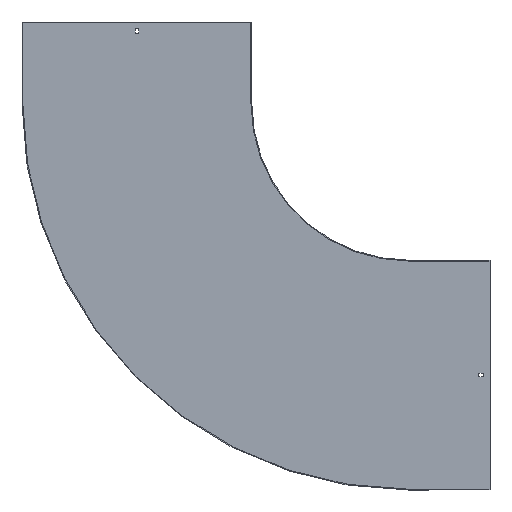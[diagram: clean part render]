
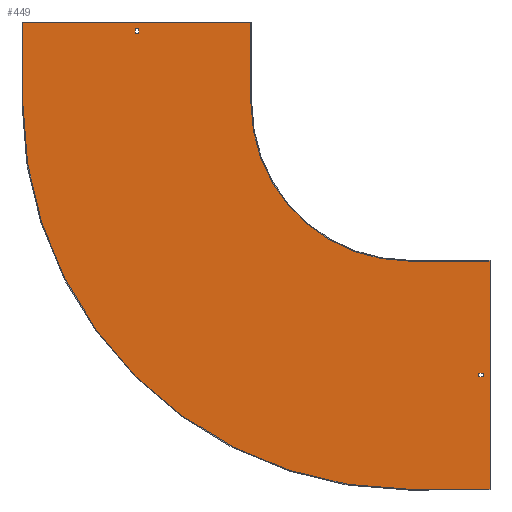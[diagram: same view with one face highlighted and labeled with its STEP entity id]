
A CAD part, front view. The second image highlights one B-rep face of the part: STEP entity #449.
In plain terms, the highlighted planar face has unit normal (0, -1, 0).
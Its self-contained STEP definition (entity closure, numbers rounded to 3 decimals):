
#6 = CARTESIAN_POINT ( 'NONE',  ( 138., -1.5, 0. ) ) ;
#19 = ORIENTED_EDGE ( 'NONE', *, *, #100, .F. ) ;
#25 = CIRCLE ( 'NONE', #410, 710. ) ;
#26 = DIRECTION ( 'NONE',  ( 1., 0., 0. ) ) ;
#29 = CARTESIAN_POINT ( 'NONE',  ( -496.75, -1.5, 0. ) ) ;
#47 = AXIS2_PLACEMENT_3D ( 'NONE', #545, #805, #743 ) ;
#56 = CARTESIAN_POINT ( 'NONE',  ( 0., -1.5, -496.75 ) ) ;
#59 = ORIENTED_EDGE ( 'NONE', *, *, #819, .F. ) ;
#69 = VERTEX_POINT ( 'NONE', #794 ) ;
#71 = DIRECTION ( 'NONE',  ( 0., 0., -1. ) ) ;
#73 = CARTESIAN_POINT ( 'NONE',  ( -710., -1.5, 0. ) ) ;
#74 = FACE_BOUND ( 'NONE', #325, .T. ) ;
#76 = LINE ( 'NONE', #688, #215 ) ;
#84 = CARTESIAN_POINT ( 'NONE',  ( 129., -1.5, -496.75 ) ) ;
#87 = EDGE_CURVE ( 'NONE', #456, #430, #734, .T. ) ;
#94 = VERTEX_POINT ( 'NONE', #681 ) ;
#100 = EDGE_CURVE ( 'NONE', #264, #472, #76, .T. ) ;
#103 = AXIS2_PLACEMENT_3D ( 'NONE', #808, #607, #675 ) ;
#106 = VECTOR ( 'NONE', #538, 1000. ) ;
#110 = ORIENTED_EDGE ( 'NONE', *, *, #131, .F. ) ;
#112 = CARTESIAN_POINT ( 'NONE',  ( -290., -1.5, 150. ) ) ;
#119 = VERTEX_POINT ( 'NONE', #412 ) ;
#124 = VECTOR ( 'NONE', #71, 1000. ) ;
#126 = ORIENTED_EDGE ( 'NONE', *, *, #846, .F. ) ;
#127 = LINE ( 'NONE', #768, #628 ) ;
#131 = EDGE_CURVE ( 'NONE', #69, #94, #153, .T. ) ;
#132 = VERTEX_POINT ( 'NONE', #741 ) ;
#133 = CARTESIAN_POINT ( 'NONE',  ( -290., -1.5, 150. ) ) ;
#144 = DIRECTION ( 'NONE',  ( 0., 0., 1. ) ) ;
#145 = EDGE_CURVE ( 'NONE', #407, #844, #25, .T. ) ;
#146 = PLANE ( 'NONE',  #103 ) ;
#147 = EDGE_CURVE ( 'NONE', #132, #312, #620, .T. ) ;
#149 = VERTEX_POINT ( 'NONE', #363 ) ;
#151 = DIRECTION ( 'NONE',  ( 1., 0., 0. ) ) ;
#153 = LINE ( 'NONE', #6, #106 ) ;
#156 = CARTESIAN_POINT ( 'NONE',  ( 129., -1.5, 0. ) ) ;
#164 = CARTESIAN_POINT ( 'NONE',  ( 150., -1.5, -290. ) ) ;
#176 = DIRECTION ( 'NONE',  ( 1., 0., 0. ) ) ;
#181 = EDGE_CURVE ( 'NONE', #472, #407, #703, .T. ) ;
#215 = VECTOR ( 'NONE', #406, 1000. ) ;
#217 = CARTESIAN_POINT ( 'NONE',  ( 129., -1.5, -503.25 ) ) ;
#224 = EDGE_CURVE ( 'NONE', #312, #855, #764, .T. ) ;
#234 = EDGE_CURVE ( 'NONE', #430, #69, #309, .T. ) ;
#246 = ORIENTED_EDGE ( 'NONE', *, *, #451, .F. ) ;
#263 = VECTOR ( 'NONE', #151, 1000. ) ;
#264 = VERTEX_POINT ( 'NONE', #164 ) ;
#265 = VECTOR ( 'NONE', #665, 1000. ) ;
#271 = CARTESIAN_POINT ( 'NONE',  ( 0., -1.5, 138. ) ) ;
#274 = CARTESIAN_POINT ( 'NONE',  ( 0., -1.5, -290. ) ) ;
#292 = VECTOR ( 'NONE', #505, 1000. ) ;
#301 = CARTESIAN_POINT ( 'NONE',  ( 0., -1.5, -290. ) ) ;
#304 = DIRECTION ( 'NONE',  ( 0., 0., -1. ) ) ;
#305 = DIRECTION ( 'NONE',  ( -1., 0., 0. ) ) ;
#309 = LINE ( 'NONE', #760, #659 ) ;
#312 = VERTEX_POINT ( 'NONE', #714 ) ;
#325 = EDGE_LOOP ( 'NONE', ( #646, #812, #522, #625 ) ) ;
#334 = ORIENTED_EDGE ( 'NONE', *, *, #726, .F. ) ;
#340 = VERTEX_POINT ( 'NONE', #399 ) ;
#345 = LINE ( 'NONE', #274, #263 ) ;
#352 = CARTESIAN_POINT ( 'NONE',  ( 0., -1.5, 129. ) ) ;
#353 = VERTEX_POINT ( 'NONE', #112 ) ;
#363 = CARTESIAN_POINT ( 'NONE',  ( -710., -1.5, 150. ) ) ;
#370 = DIRECTION ( 'NONE',  ( -1., 0., 0. ) ) ;
#389 = ORIENTED_EDGE ( 'NONE', *, *, #145, .F. ) ;
#399 = CARTESIAN_POINT ( 'NONE',  ( -290., -1.5, 0. ) ) ;
#406 = DIRECTION ( 'NONE',  ( 0., 0., -1. ) ) ;
#407 = VERTEX_POINT ( 'NONE', #717 ) ;
#410 = AXIS2_PLACEMENT_3D ( 'NONE', #616, #420, #684 ) ;
#412 = CARTESIAN_POINT ( 'NONE',  ( -496.75, -1.5, 138. ) ) ;
#416 = ORIENTED_EDGE ( 'NONE', *, *, #725, .F. ) ;
#420 = DIRECTION ( 'NONE',  ( 0., 1., 0. ) ) ;
#421 = ORIENTED_EDGE ( 'NONE', *, *, #181, .F. ) ;
#425 = VECTOR ( 'NONE', #144, 1000. ) ;
#430 = VERTEX_POINT ( 'NONE', #217 ) ;
#434 = EDGE_LOOP ( 'NONE', ( #416, #110, #821, #710 ) ) ;
#443 = CARTESIAN_POINT ( 'NONE',  ( -503.25, -1.5, 0. ) ) ;
#447 = EDGE_LOOP ( 'NONE', ( #334, #59, #389, #421, #19, #246, #668, #126 ) ) ;
#449 = ADVANCED_FACE ( 'NONE', ( #733, #687, #74 ), #146, .T. ) ;
#451 = EDGE_CURVE ( 'NONE', #549, #264, #345, .T. ) ;
#456 = VERTEX_POINT ( 'NONE', #84 ) ;
#472 = VERTEX_POINT ( 'NONE', #614 ) ;
#476 = VECTOR ( 'NONE', #504, 1000. ) ;
#478 = EDGE_CURVE ( 'NONE', #855, #119, #479, .T. ) ;
#479 = LINE ( 'NONE', #271, #510 ) ;
#504 = DIRECTION ( 'NONE',  ( 0., 0., 1. ) ) ;
#505 = DIRECTION ( 'NONE',  ( -1., 0., 0. ) ) ;
#510 = VECTOR ( 'NONE', #531, 1000. ) ;
#514 = EDGE_CURVE ( 'NONE', #340, #549, #772, .T. ) ;
#522 = ORIENTED_EDGE ( 'NONE', *, *, #147, .T. ) ;
#531 = DIRECTION ( 'NONE',  ( 1., 0., 0. ) ) ;
#538 = DIRECTION ( 'NONE',  ( 0., 0., 1. ) ) ;
#544 = CARTESIAN_POINT ( 'NONE',  ( -503.25, -1.5, 138. ) ) ;
#545 = CARTESIAN_POINT ( 'NONE',  ( 0., -1.5, 0. ) ) ;
#549 = VERTEX_POINT ( 'NONE', #301 ) ;
#570 = CARTESIAN_POINT ( 'NONE',  ( 150., -1.5, -710. ) ) ;
#600 = LINE ( 'NONE', #792, #425 ) ;
#601 = VECTOR ( 'NONE', #305, 1000. ) ;
#607 = DIRECTION ( 'NONE',  ( 0., -1., 0. ) ) ;
#612 = EDGE_CURVE ( 'NONE', #119, #132, #639, .T. ) ;
#614 = CARTESIAN_POINT ( 'NONE',  ( 150., -1.5, -710. ) ) ;
#616 = CARTESIAN_POINT ( 'NONE',  ( 0., -1.5, 0. ) ) ;
#620 = LINE ( 'NONE', #352, #601 ) ;
#625 = ORIENTED_EDGE ( 'NONE', *, *, #224, .T. ) ;
#628 = VECTOR ( 'NONE', #176, 1000. ) ;
#639 = LINE ( 'NONE', #29, #826 ) ;
#646 = ORIENTED_EDGE ( 'NONE', *, *, #478, .T. ) ;
#659 = VECTOR ( 'NONE', #26, 1000. ) ;
#665 = DIRECTION ( 'NONE',  ( 0., 0., -1. ) ) ;
#668 = ORIENTED_EDGE ( 'NONE', *, *, #514, .F. ) ;
#675 = DIRECTION ( 'NONE',  ( 0., 0., -1. ) ) ;
#679 = LINE ( 'NONE', #133, #265 ) ;
#681 = CARTESIAN_POINT ( 'NONE',  ( 138., -1.5, -496.75 ) ) ;
#684 = DIRECTION ( 'NONE',  ( 0., 0., -1. ) ) ;
#687 = FACE_OUTER_BOUND ( 'NONE', #447, .T. ) ;
#688 = CARTESIAN_POINT ( 'NONE',  ( 150., -1.5, -288.5 ) ) ;
#703 = LINE ( 'NONE', #570, #740 ) ;
#710 = ORIENTED_EDGE ( 'NONE', *, *, #87, .F. ) ;
#714 = CARTESIAN_POINT ( 'NONE',  ( -503.25, -1.5, 129. ) ) ;
#717 = CARTESIAN_POINT ( 'NONE',  ( 0., -1.5, -710. ) ) ;
#725 = EDGE_CURVE ( 'NONE', #94, #456, #728, .T. ) ;
#726 = EDGE_CURVE ( 'NONE', #149, #353, #127, .T. ) ;
#728 = LINE ( 'NONE', #56, #292 ) ;
#733 = FACE_BOUND ( 'NONE', #434, .T. ) ;
#734 = LINE ( 'NONE', #156, #124 ) ;
#740 = VECTOR ( 'NONE', #370, 1000. ) ;
#741 = CARTESIAN_POINT ( 'NONE',  ( -496.75, -1.5, 129. ) ) ;
#743 = DIRECTION ( 'NONE',  ( 0., 0., -1. ) ) ;
#760 = CARTESIAN_POINT ( 'NONE',  ( 0., -1.5, -503.25 ) ) ;
#764 = LINE ( 'NONE', #443, #476 ) ;
#768 = CARTESIAN_POINT ( 'NONE',  ( -711.5, -1.5, 150. ) ) ;
#772 = CIRCLE ( 'NONE', #47, 290. ) ;
#792 = CARTESIAN_POINT ( 'NONE',  ( -710., -1.5, 0. ) ) ;
#794 = CARTESIAN_POINT ( 'NONE',  ( 138., -1.5, -503.25 ) ) ;
#805 = DIRECTION ( 'NONE',  ( 0., -1., 0. ) ) ;
#808 = CARTESIAN_POINT ( 'NONE',  ( 0., -1.5, 0. ) ) ;
#812 = ORIENTED_EDGE ( 'NONE', *, *, #612, .T. ) ;
#819 = EDGE_CURVE ( 'NONE', #844, #149, #600, .T. ) ;
#821 = ORIENTED_EDGE ( 'NONE', *, *, #234, .F. ) ;
#826 = VECTOR ( 'NONE', #304, 1000. ) ;
#844 = VERTEX_POINT ( 'NONE', #73 ) ;
#846 = EDGE_CURVE ( 'NONE', #353, #340, #679, .T. ) ;
#855 = VERTEX_POINT ( 'NONE', #544 ) ;
